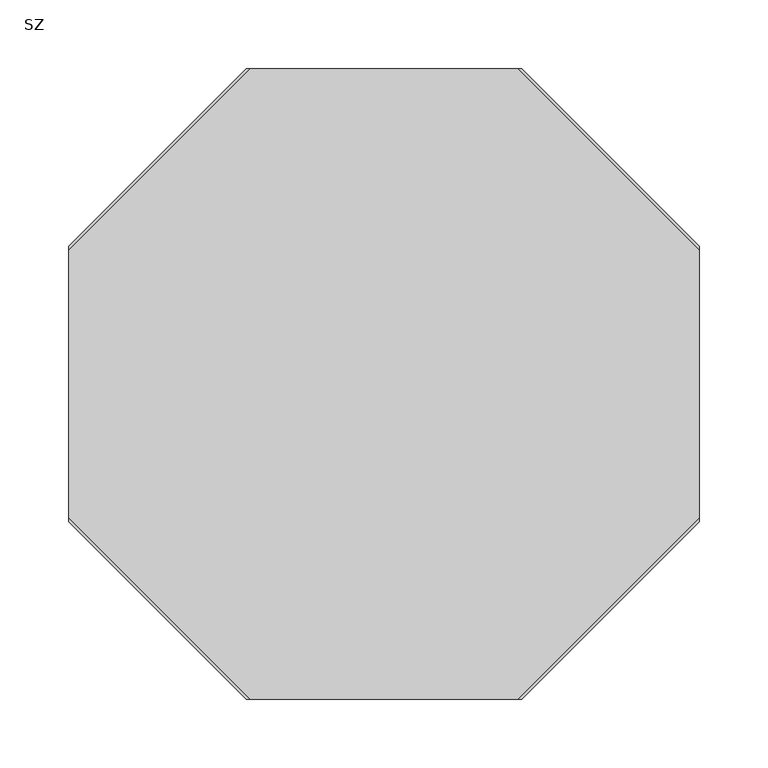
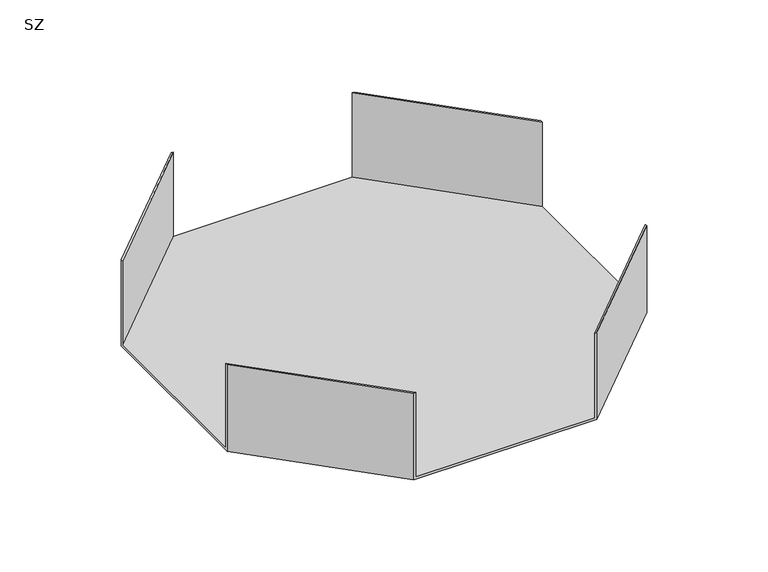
"""IFC4 building model written with IfcOpenShell, lengths in millimetres: cable carrier fitting geometry, IEK_Листовой_Крестовина : SZ."""

from ifc_helpers import new_model, si_unit, origin, place, context, project, spatial, faceted_brep, source, transform, mapped, element, save


def sz_65a5ffdf(model_context):
    return source(origin(), model_context, "Body", "Brep", [
        faceted_brep([(229.0, -100.0, 50.0), (229.0, -97.5, 50.0), (97.5, -229.0, 50.0), (100.0, -229.0, 50.0), (100.0, 229.0, 50.0), (97.5, 229.0, 50.0), (229.0, 97.5, 50.0), (229.0, 100.0, 50.0), (-229.0, -100.0, 50.0), (-100.0, -229.0, 50.0), (-97.5, -229.0, 50.0), (-229.0, -97.5, 50.0), (-229.0, 97.5, 50.0), (-97.5, 229.0, 50.0), (-100.0, 229.0, 50.0), (-229.0, 100.0, 50.0), (-229.0, 100.0, -50.0), (-100.0, 229.0, -50.0), (100.0, 229.0, -50.0), (229.0, 100.0, -50.0), (229.0, -100.0, -50.0), (100.0, -229.0, -50.0), (-100.0, -229.0, -50.0), (-229.0, -100.0, -50.0), (97.5, -229.0, -47.5), (-97.5, -229.0, -47.5), (-229.0, -97.5, -47.5), (-229.0, 97.5, -47.5), (229.0, 97.5, -47.5), (229.0, -97.5, -47.5), (97.5, 229.0, -47.5), (-97.5, 229.0, -47.5)], [[[0, 1, 2, 3]], [[4, 5, 6, 7]], [[8, 9, 10, 11]], [[12, 13, 14, 15]], [[16, 17, 18, 19, 20, 21, 22, 23]], [[10, 9, 22, 21, 3, 2, 24, 25]], [[8, 11, 26, 27, 12, 15, 16, 23]], [[1, 0, 20, 19, 7, 6, 28, 29]], [[25, 24, 29, 28, 30, 31, 27, 26]], [[14, 13, 31, 30, 5, 4, 18, 17]], [[22, 9, 8, 23]], [[11, 10, 25, 26]], [[2, 1, 29, 24]], [[20, 0, 3, 21]], [[13, 12, 27, 31]], [[16, 15, 14, 17]], [[6, 5, 30, 28]], [[18, 4, 7, 19]]]),
    ])


if __name__ == "__main__":
    model = new_model("IFC4")
    model_context = context("Model", 3, world=origin())
    ifc_project = project(units=[si_unit("LENGTHUNIT", "METRE", prefix="MILLI")], contexts=[model_context])
    site = spatial("IfcSite", under=ifc_project)
    building = spatial("IfcBuilding", under=site)
    placement = place(None, origin())
    sz_shape = sz_65a5ffdf(model_context)
    element("IfcCableCarrierFitting", 1, ObjectType="IEK_Листовой_Крестовина : SZ", at=placement, inside=building, context=model_context, shape_type="MappedRepresentation", body=[
        mapped(sz_shape, transform((0.0, 0.0, 0.0), x_axis=(1.0, 0.0, 0.0), y_axis=(0.0, 1.0, 0.0), z_axis=(0.0, 0.0, 1.0))),
    ])
    save(model, "model.ifc")
